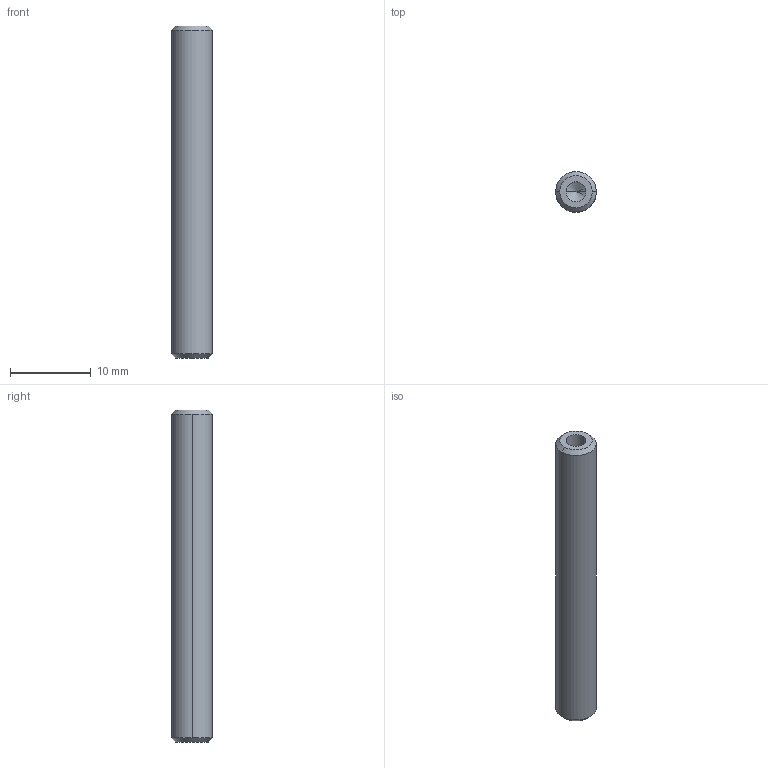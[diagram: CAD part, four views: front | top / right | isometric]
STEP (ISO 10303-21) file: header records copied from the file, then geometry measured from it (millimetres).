
FILE_DESCRIPTION (( 'STEP AP214' ), '1' );
FILE_NAME ('GZ21.12_V1弹簧轴.STEP', '2021-02-26T07:08:12', ( '微软中国' ), ( 'Microsoft' ), 'SwSTEP 2.0', 'SolidWorks 2017', '' );
FILE_SCHEMA (( 'AUTOMOTIVE_DESIGN' ));
Length unit declared in the file: millimetre
Products named in the file (1): GZ21.12_V1粟銅粣
Bounding box: 5 x 5 x 41 mm (x, y, z)
Volume: 759.8 mm3; surface area: 739.9 mm2
Topology: 1 solids, 1 shells, 12 faces, 24 edges, 13 vertices
Faces by surface type: cone 6, cylinder 4, plane 2
Entity records: 354 total; most frequent: DIRECTION 60, CARTESIAN_POINT 48, ORIENTED_EDGE 44, AXIS2_PLACEMENT_3D 25, EDGE_CURVE 22, VERTEX_POINT 13, EDGE_LOOP 13, CIRCLE 12
